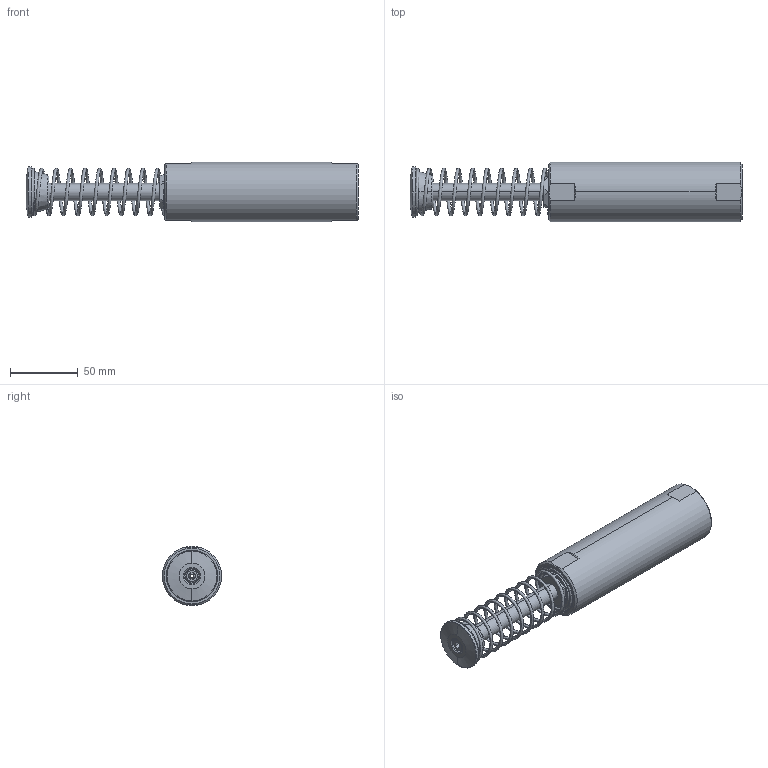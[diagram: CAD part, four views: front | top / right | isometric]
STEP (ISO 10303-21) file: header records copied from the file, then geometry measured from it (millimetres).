
FILE_DESCRIPTION (( 'STEP AP214' ), '1' );
FILE_NAME ('PMXT 1575.STEP', '2010-08-04T14:17:40', ( ' ' ), ( '' ), 'SwSTEP 2.0', 'SolidWorks 2006233', '' );
FILE_SCHEMA (( 'AUTOMOTIVE_DESIGN' ));
Length unit declared in the file: inch
Products named in the file (1): PMXT 1575
Bounding box: 245.85 x 43.78 x 43.94 mm (x, y, z)
Surface area: 40632.9 mm2 (no closed solid volume)
Topology: 0 solids, 9 shells, 130 faces, 321 edges, 201 vertices
Faces by surface type: plane 44, cone 42, cylinder 34, bspline 6, torus 4
Entity records: 10952 total; most frequent: CARTESIAN_POINT 6276, DIRECTION 626, ORIENTED_EDGE 594, EDGE_CURVE 321, AXIS2_PLACEMENT_3D 253, VERTEX_POINT 201, EDGE_LOOP 141, UNCERTAINTY_MEASURE_WITH_UNIT 131
